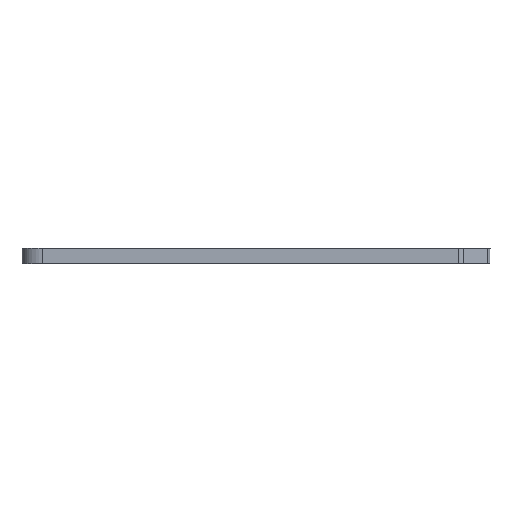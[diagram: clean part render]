
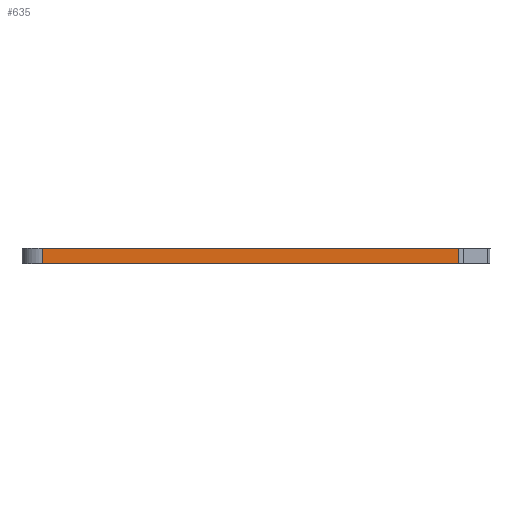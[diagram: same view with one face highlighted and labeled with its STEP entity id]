
A CAD part, front view. The second image highlights one B-rep face of the part: STEP entity #635.
In plain terms, the highlighted planar face has unit normal (0, -1, 0).
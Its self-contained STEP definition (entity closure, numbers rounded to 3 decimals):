
#35=CARTESIAN_POINT('',(-107.371,-24.986,7.275));
#36=VERTEX_POINT('',#35);
#46=CARTESIAN_POINT('',(-47.157,-24.986,7.275));
#47=VERTEX_POINT('',#46);
#48=CARTESIAN_POINT('',(-47.157,-24.986,7.275));
#49=DIRECTION('',(-1.,0.,0.));
#50=VECTOR('',#49,60.213);
#51=LINE('',#48,#50);
#52=EDGE_CURVE('',#47,#36,#51,.T.);
#338=CARTESIAN_POINT('',(-107.371,-24.986,5.075));
#339=VERTEX_POINT('',#338);
#596=CARTESIAN_POINT('',(-47.157,-24.986,5.075));
#597=VERTEX_POINT('',#596);
#605=CARTESIAN_POINT('',(-107.371,-24.986,5.075));
#606=DIRECTION('',(1.,0.,0.));
#607=VECTOR('',#606,60.213);
#608=LINE('',#605,#607);
#609=EDGE_CURVE('',#339,#597,#608,.T.);
#614=CARTESIAN_POINT('',(-77.264,-24.986,6.175));
#615=DIRECTION('',(-1.,0.,0.));
#616=DIRECTION('',(0.,1.,-0.));
#617=AXIS2_PLACEMENT_3D('',#614,#616,#615);
#618=PLANE('',#617);
#619=CARTESIAN_POINT('',(-47.157,-24.986,7.275));
#620=DIRECTION('',(0.,0.,-1.));
#621=VECTOR('',#620,2.2);
#622=LINE('',#619,#621);
#623=EDGE_CURVE('',#47,#597,#622,.T.);
#624=ORIENTED_EDGE('E198',*,*,#623,.T.);
#625=ORIENTED_EDGE('E198',*,*,#609,.F.);
#626=CARTESIAN_POINT('',(-107.371,-24.986,5.075));
#627=DIRECTION('',(0.,0.,1.));
#628=VECTOR('',#627,2.2);
#629=LINE('',#626,#628);
#630=EDGE_CURVE('',#339,#36,#629,.T.);
#631=ORIENTED_EDGE('E199',*,*,#630,.T.);
#632=ORIENTED_EDGE('E199',*,*,#52,.F.);
#633=EDGE_LOOP('',(#624,#625,#631,#632));
#634=FACE_OUTER_BOUND('',#633,.F.);
#635=ADVANCED_FACE('F5',(#634),#618,.F.);
